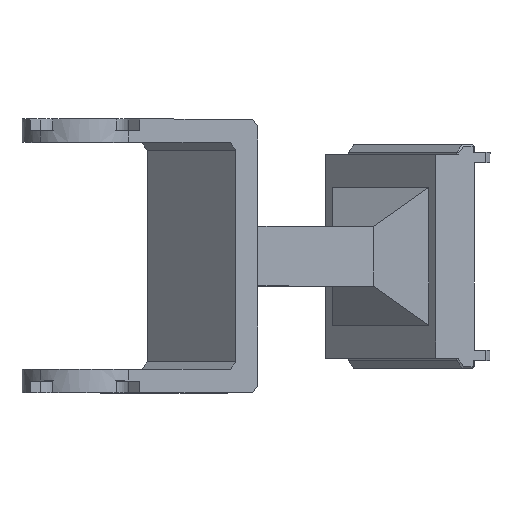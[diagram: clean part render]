
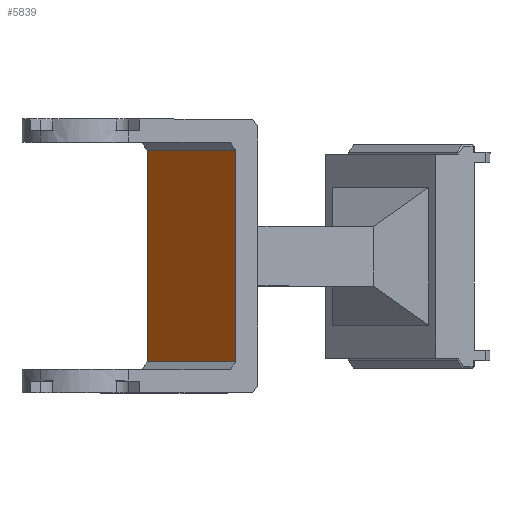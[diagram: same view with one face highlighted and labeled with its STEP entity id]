
A CAD part, top view. The second image highlights one B-rep face of the part: STEP entity #5839.
In plain terms, the highlighted planar face has unit normal (-0.707, 0, 0.707) as drawn and (-1, 0, 0) by its records, which use the part's own axes.
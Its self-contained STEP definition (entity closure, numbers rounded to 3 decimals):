
#19 = CARTESIAN_POINT ( 'NONE',  ( -3.338, -11.2, -17.25 ) ) ;
#213 = EDGE_CURVE ( 'NONE', #1349, #2270, #2864, .T. ) ;
#666 = EDGE_CURVE ( 'NONE', #1622, #1349, #4332, .T. ) ;
#678 = DIRECTION ( 'NONE',  ( 0., 0., -1. ) ) ;
#703 = CARTESIAN_POINT ( 'NONE',  ( -3.338, -13.2, -18.25 ) ) ;
#748 = ORIENTED_EDGE ( 'NONE', *, *, #3456, .T. ) ;
#796 = VERTEX_POINT ( 'NONE', #2960 ) ;
#895 = ORIENTED_EDGE ( 'NONE', *, *, #213, .T. ) ;
#1117 = CARTESIAN_POINT ( 'NONE',  ( -3.338, -11.2, 10.75 ) ) ;
#1349 = VERTEX_POINT ( 'NONE', #19 ) ;
#1622 = VERTEX_POINT ( 'NONE', #5658 ) ;
#1688 = VECTOR ( 'NONE', #2203, 1000. ) ;
#2036 = CARTESIAN_POINT ( 'NONE',  ( -3.338, -11.2, -17.25 ) ) ;
#2139 = LINE ( 'NONE', #3528, #4019 ) ;
#2203 = DIRECTION ( 'NONE',  ( 0., 1., 0. ) ) ;
#2270 = VERTEX_POINT ( 'NONE', #2311 ) ;
#2311 = CARTESIAN_POINT ( 'NONE',  ( -3.338, -11.2, 9.75 ) ) ;
#2482 = DIRECTION ( 'NONE',  ( 1., 0., 0. ) ) ;
#2828 = DIRECTION ( 'NONE',  ( 0., -1., 0. ) ) ;
#2864 = LINE ( 'NONE', #1117, #3431 ) ;
#2960 = CARTESIAN_POINT ( 'NONE',  ( -3.338, 4.8, 9.75 ) ) ;
#3103 = AXIS2_PLACEMENT_3D ( 'NONE', #703, #2482, #678 ) ;
#3431 = VECTOR ( 'NONE', #4336, 1000. ) ;
#3456 = EDGE_CURVE ( 'NONE', #796, #1622, #2139, .T. ) ;
#3528 = CARTESIAN_POINT ( 'NONE',  ( -3.338, 4.8, -18.25 ) ) ;
#3930 = FACE_OUTER_BOUND ( 'NONE', #5898, .T. ) ;
#4019 = VECTOR ( 'NONE', #5370, 1000. ) ;
#4236 = ORIENTED_EDGE ( 'NONE', *, *, #666, .T. ) ;
#4332 = LINE ( 'NONE', #2036, #5780 ) ;
#4336 = DIRECTION ( 'NONE',  ( 0., 0., 1. ) ) ;
#4406 = EDGE_CURVE ( 'NONE', #2270, #796, #4943, .T. ) ;
#4825 = PLANE ( 'NONE',  #3103 ) ;
#4849 = CARTESIAN_POINT ( 'NONE',  ( -3.338, 4.8, 9.75 ) ) ;
#4943 = LINE ( 'NONE', #4849, #1688 ) ;
#5370 = DIRECTION ( 'NONE',  ( 0., 0., -1. ) ) ;
#5658 = CARTESIAN_POINT ( 'NONE',  ( -3.338, 4.8, -17.25 ) ) ;
#5720 = ORIENTED_EDGE ( 'NONE', *, *, #4406, .T. ) ;
#5780 = VECTOR ( 'NONE', #2828, 1000. ) ;
#5839 = ADVANCED_FACE ( 'NONE', ( #3930 ), #4825, .F. ) ;
#5898 = EDGE_LOOP ( 'NONE', ( #895, #5720, #748, #4236 ) ) ;
